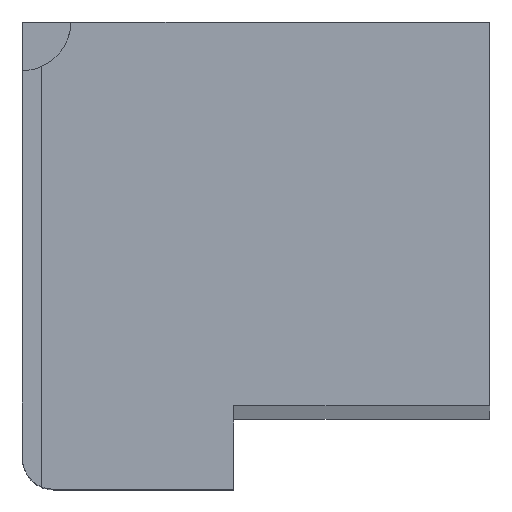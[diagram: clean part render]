
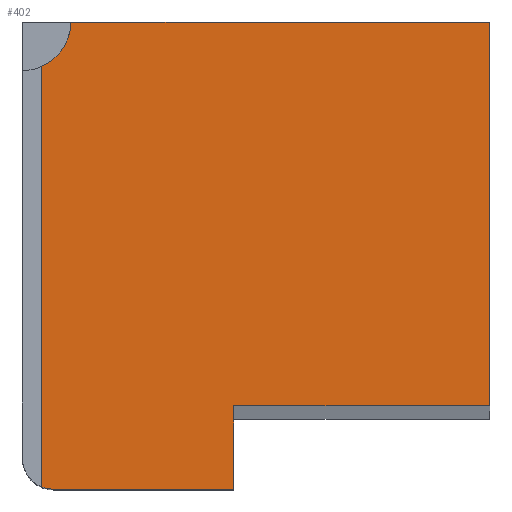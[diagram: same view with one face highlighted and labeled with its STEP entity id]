
A CAD part, top view. The second image highlights one B-rep face of the part: STEP entity #402.
In plain terms, the highlighted planar face has unit normal (0, 0, 1).
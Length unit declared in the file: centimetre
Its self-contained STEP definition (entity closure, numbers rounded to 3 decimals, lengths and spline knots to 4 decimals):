
#2 = ORIENTED_EDGE ( 'NONE', *, *, #598, .T. ) ;
#13 = CARTESIAN_POINT ( 'NONE',  ( 0., 1000., 1000. ) ) ;
#30 = AXIS2_PLACEMENT_3D ( 'NONE', #407, #804, #103 ) ;
#33 = DIRECTION ( 'NONE',  ( 1., 0., 0. ) ) ;
#45 = ORIENTED_EDGE ( 'NONE', *, *, #655, .T. ) ;
#60 = CARTESIAN_POINT ( 'NONE',  ( 452.2051, 178.1502, 1000. ) ) ;
#87 = LINE ( 'NONE', #94, #247 ) ;
#94 = CARTESIAN_POINT ( 'NONE',  ( 452.2051, 0., 1000. ) ) ;
#99 = CARTESIAN_POINT ( 'NONE',  ( 40.7641, 5.2884, 1000. ) ) ;
#103 = DIRECTION ( 'NONE',  ( 1., 0., 0. ) ) ;
#110 = VERTEX_POINT ( 'NONE', #125 ) ;
#115 = EDGE_CURVE ( 'NONE', #517, #538, #659, .T. ) ;
#118 = ORIENTED_EDGE ( 'NONE', *, *, #375, .F. ) ;
#125 = CARTESIAN_POINT ( 'NONE',  ( 1000., 178.1502, 1000. ) ) ;
#161 = VECTOR ( 'NONE', #167, 100. ) ;
#167 = DIRECTION ( 'NONE',  ( 0., 1., 0. ) ) ;
#172 = CARTESIAN_POINT ( 'NONE',  ( 1000., 1000., 1000. ) ) ;
#196 = PLANE ( 'NONE',  #724 ) ;
#211 = VERTEX_POINT ( 'NONE', #605 ) ;
#212 = DIRECTION ( 'NONE',  ( 0., 0., 1. ) ) ;
#218 = DIRECTION ( 'NONE',  ( 1., 0., 0. ) ) ;
#222 = ORIENTED_EDGE ( 'NONE', *, *, #743, .T. ) ;
#236 = CARTESIAN_POINT ( 'NONE',  ( 40.7641, 904.7108, 1000. ) ) ;
#247 = VECTOR ( 'NONE', #705, 100. ) ;
#267 = LINE ( 'NONE', #954, #765 ) ;
#316 = ORIENTED_EDGE ( 'NONE', *, *, #115, .F. ) ;
#331 = VERTEX_POINT ( 'NONE', #468 ) ;
#344 = LINE ( 'NONE', #645, #733 ) ;
#347 = VECTOR ( 'NONE', #545, 100. ) ;
#375 = EDGE_CURVE ( 'NONE', #409, #759, #87, .T. ) ;
#402 = ADVANCED_FACE ( 'NONE', ( #683 ), #196, .T. ) ;
#406 = ORIENTED_EDGE ( 'NONE', *, *, #737, .T. ) ;
#407 = CARTESIAN_POINT ( 'NONE',  ( 66.8168, 66.8168, 1000. ) ) ;
#409 = VERTEX_POINT ( 'NONE', #60 ) ;
#419 = CIRCLE ( 'NONE', #30, 66.8168 ) ;
#421 = DIRECTION ( 'NONE',  ( 1., 0., 0. ) ) ;
#431 = CARTESIAN_POINT ( 'NONE',  ( 0., 0., 1000. ) ) ;
#468 = CARTESIAN_POINT ( 'NONE',  ( 1000., 1000., 1000. ) ) ;
#469 = CARTESIAN_POINT ( 'NONE',  ( 40.7641, 0., 1000. ) ) ;
#517 = VERTEX_POINT ( 'NONE', #236 ) ;
#534 = EDGE_CURVE ( 'NONE', #110, #331, #797, .T. ) ;
#538 = VERTEX_POINT ( 'NONE', #937 ) ;
#545 = DIRECTION ( 'NONE',  ( 0., 1., 0. ) ) ;
#586 = CARTESIAN_POINT ( 'NONE',  ( 0., 1000., 1000. ) ) ;
#593 = ORIENTED_EDGE ( 'NONE', *, *, #611, .F. ) ;
#597 = EDGE_LOOP ( 'NONE', ( #222, #602, #2, #316, #593, #406, #45, #118 ) ) ;
#598 = EDGE_CURVE ( 'NONE', #331, #538, #717, .T. ) ;
#602 = ORIENTED_EDGE ( 'NONE', *, *, #534, .T. ) ;
#605 = CARTESIAN_POINT ( 'NONE',  ( 66.8168, 0., 1000. ) ) ;
#606 = VECTOR ( 'NONE', #932, 100. ) ;
#611 = EDGE_CURVE ( 'NONE', #702, #517, #712, .T. ) ;
#645 = CARTESIAN_POINT ( 'NONE',  ( 452.2051, 178.1502, 1000. ) ) ;
#655 = EDGE_CURVE ( 'NONE', #211, #759, #267, .T. ) ;
#656 = CARTESIAN_POINT ( 'NONE',  ( 452.2051, 0., 1000. ) ) ;
#659 = CIRCLE ( 'NONE', #796, 103.6424 ) ;
#683 = FACE_OUTER_BOUND ( 'NONE', #597, .T. ) ;
#702 = VERTEX_POINT ( 'NONE', #99 ) ;
#705 = DIRECTION ( 'NONE',  ( 0., -1., 0. ) ) ;
#712 = LINE ( 'NONE', #469, #161 ) ;
#717 = LINE ( 'NONE', #13, #606 ) ;
#724 = AXIS2_PLACEMENT_3D ( 'NONE', #431, #212, #218 ) ;
#733 = VECTOR ( 'NONE', #33, 100. ) ;
#737 = EDGE_CURVE ( 'NONE', #702, #211, #419, .T. ) ;
#743 = EDGE_CURVE ( 'NONE', #409, #110, #344, .T. ) ;
#747 = DIRECTION ( 'NONE',  ( 0., 0., 1. ) ) ;
#759 = VERTEX_POINT ( 'NONE', #656 ) ;
#765 = VECTOR ( 'NONE', #958, 100. ) ;
#796 = AXIS2_PLACEMENT_3D ( 'NONE', #586, #747, #421 ) ;
#797 = LINE ( 'NONE', #172, #347 ) ;
#804 = DIRECTION ( 'NONE',  ( 0., 0., 1. ) ) ;
#932 = DIRECTION ( 'NONE',  ( -1., 0., 0. ) ) ;
#937 = CARTESIAN_POINT ( 'NONE',  ( 103.6424, 1000., 1000. ) ) ;
#954 = CARTESIAN_POINT ( 'NONE',  ( 0., 0., 1000. ) ) ;
#958 = DIRECTION ( 'NONE',  ( 1., 0., 0. ) ) ;
